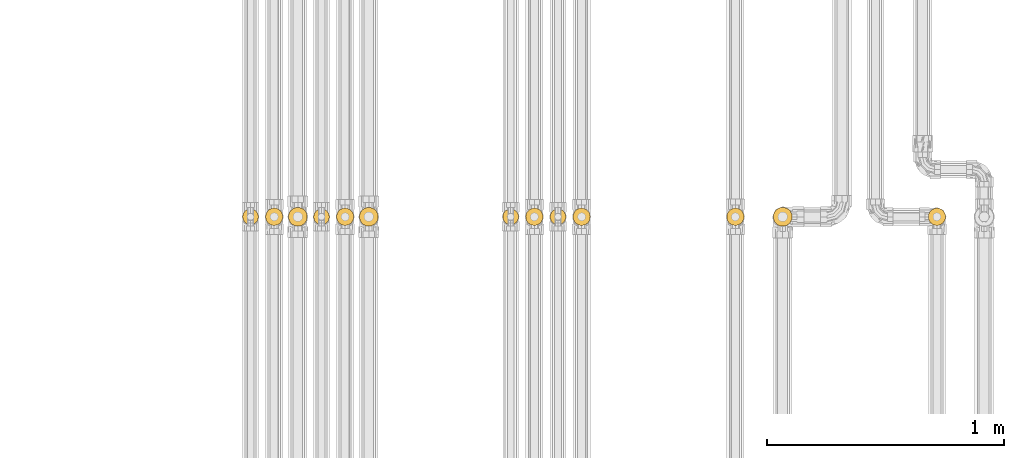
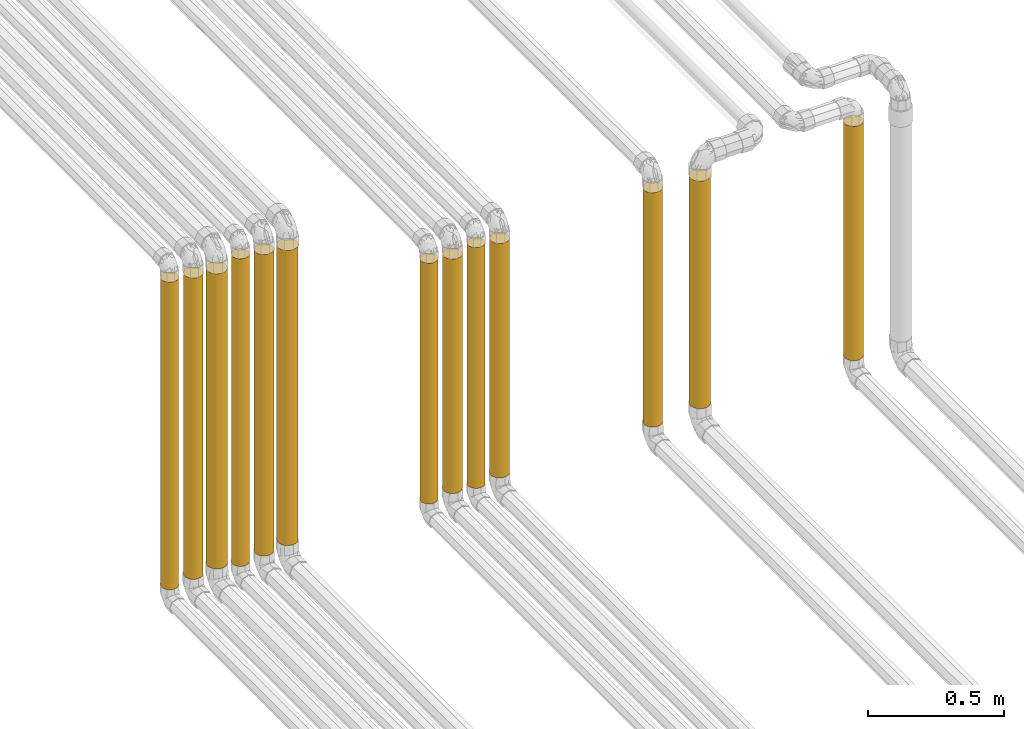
# One storey, part 51 of 652: 13 coverings.
"""IFC2X3 building model written with IfcOpenShell, lengths in millimetres."""

from ifc_helpers import new_model, entity, si_unit, converted_unit, direction, frame, frame_2d, origin, origin_2d_with_axis, place, context, subcontext, project, spatial, circle, extrude, material, type_object, element, save


model = new_model("IFC2X3")

# Units and contexts
model_context = context("Model", 3, precision=0.01, world=frame((0.0, 0.0, 308426.39999999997)), true_north=direction((6.123233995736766e-17, 1.0)))
plan_context = context("Plan", 3, precision=0.01, world=frame((0.0, 0.0, 308426.39999999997)), true_north=direction((6.123233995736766e-17, 1.0)))
body_context = subcontext(model_context, "Body", "Model", "MODEL_VIEW")
ifc_project = project(units=[si_unit("LENGTHUNIT", "METRE", prefix="MILLI"), si_unit("AREAUNIT", "SQUARE_METRE"), si_unit("VOLUMEUNIT", "CUBIC_METRE"), converted_unit("PLANEANGLEUNIT", "DEGREE", entity("IfcPlaneAngleMeasure", 0.017453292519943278), si_unit("PLANEANGLEUNIT", "RADIAN"), dimensions=[0, 0, 0, 0, 0, 0, 0])], contexts=[model_context, plan_context])

# Site, building, storey
site_placement = place(None, origin())
site = spatial("IfcSite", under=ifc_project, at=site_placement, Name="Default", CompositionType="ELEMENT")
building_placement = place(site_placement, origin())
building = spatial("IfcBuilding", under=site, at=building_placement, CompositionType="ELEMENT")
storey_placement = place(building_placement, frame((0.0, 0.0, 1730.6999999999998)))
storey = spatial("IfcBuildingStorey", under=building, at=storey_placement, Name="EG_Produktion_FFB", CompositionType="ELEMENT", Elevation=1730.6999999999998)

# Coverings
ifc_material = material(Name="Dämmung - Armaflex-Schlauch")
covering_type = type_object("IfcCoveringType", Name="Rohrdämmung außen:Armaflex-Schlauch", PredefinedType="INSULATION")
covering_1_placement = place(storey_placement, origin())
element("IfcCovering", 1, at=covering_1_placement, inside=storey, type_object=covering_type, material=ifc_material, Name="Rohrdämmung außen:Armaflex-Schlauch", ObjectType="Rohrdämmung außen:Armaflex-Schlauch", PredefinedType="INSULATION", context=body_context, shape_type="SweptSolid", body=[
    extrude(circle(Radius=36.5, at=frame_2d((0.0, -6.930349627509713e-11), x_axis=(1.0, 0.0))), frame((79382.09274770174, 51638.02835396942, 2474.250000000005)), (0.0, 0.0, 1.0), 1051.5000000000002),
])
covering_2_placement = place(storey_placement, origin())
element("IfcCovering", 2, at=covering_2_placement, inside=storey, type_object=covering_type, material=ifc_material, Name="Rohrdämmung außen:Armaflex-Schlauch", ObjectType="Rohrdämmung außen:Armaflex-Schlauch", PredefinedType="INSULATION", context=body_context, shape_type="SweptSolid", body=[
    extrude(circle(Radius=36.5, at=origin_2d_with_axis()), frame((78530.0, 51638.028353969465, 2474.2500000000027), z_axis=(0.0, 0.0, 1.0), x_axis=(-1.0, 0.0, 0.0)), (0.0, 0.0, 1.0), 1051.5000000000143),
])
covering_3_placement = place(storey_placement, origin())
element("IfcCovering", 3, at=covering_3_placement, inside=storey, type_object=covering_type, material=ifc_material, Name="Rohrdämmung außen:Armaflex-Schlauch", ObjectType="Rohrdämmung außen:Armaflex-Schlauch", PredefinedType="INSULATION", context=body_context, shape_type="SweptSolid", body=[
    extrude(circle(Radius=40.0, at=origin_2d_with_axis()), frame((78730.0, 51638.02835396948, 2489.720000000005)), (0.0, 0.0, 1.0), 1020.560000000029),
])
covering_4_placement = place(storey_placement, origin())
element("IfcCovering", 4, at=covering_4_placement, inside=storey, type_object=covering_type, material=ifc_material, Name="Rohrdämmung außen:Armaflex-Schlauch", ObjectType="Rohrdämmung außen:Armaflex-Schlauch", PredefinedType="INSULATION", context=body_context, shape_type="SweptSolid", body=[
    extrude(circle(Radius=36.4625, at=origin_2d_with_axis()), frame((77880.00000000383, 51638.02835396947, 2474.0842499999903), z_axis=(0.0, 0.0, 1.0), x_axis=(-1.0, 0.0, 0.0)), (0.0, 0.0, 1.0), 1051.8315000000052),
])
covering_5_placement = place(storey_placement, origin())
element("IfcCovering", 5, at=covering_5_placement, inside=storey, type_object=covering_type, material=ifc_material, Name="Rohrdämmung außen:Armaflex-Schlauch", ObjectType="Rohrdämmung außen:Armaflex-Schlauch", PredefinedType="INSULATION", context=body_context, shape_type="SweptSolid", body=[
    extrude(circle(Radius=36.4625, at=origin_2d_with_axis()), frame((77680.0000000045, 51638.028353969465, 2474.0842499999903), z_axis=(0.0, 0.0, 1.0), x_axis=(-1.0, 0.0, 0.0)), (0.0, 0.0, 1.0), 1051.8315000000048),
])
covering_6_placement = place(storey_placement, origin())
element("IfcCovering", 6, at=covering_6_placement, inside=storey, type_object=covering_type, material=ifc_material, Name="Rohrdämmung außen:Armaflex-Schlauch", ObjectType="Rohrdämmung außen:Armaflex-Schlauch", PredefinedType="INSULATION", context=body_context, shape_type="SweptSolid", body=[
    extrude(circle(Radius=33.2875, at=origin_2d_with_axis()), frame((77779.9999999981, 51638.02835396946, 2460.050749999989), z_axis=(0.0, 0.0, 1.0), x_axis=(-1.0, 0.0, 0.0)), (0.0, 0.0, 1.0), 1079.8985000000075),
])
covering_7_placement = place(storey_placement, origin())
element("IfcCovering", 7, at=covering_7_placement, inside=storey, type_object=covering_type, material=ifc_material, Name="Rohrdämmung außen:Armaflex-Schlauch", ObjectType="Rohrdämmung außen:Armaflex-Schlauch", PredefinedType="INSULATION", context=body_context, shape_type="SweptSolid", body=[
    extrude(circle(Radius=33.2875, at=origin_2d_with_axis()), frame((77580.00000000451, 51638.02835396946, 2460.0507499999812), z_axis=(0.0, 0.0, 1.0), x_axis=(-1.0, 0.0, 0.0)), (0.0, 0.0, 1.0), 1079.8985000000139),
])
covering_8_placement = place(storey_placement, origin())
element("IfcCovering", 8, at=covering_8_placement, inside=storey, type_object=covering_type, material=ifc_material, Name="Rohrdämmung außen:Armaflex-Schlauch", ObjectType="Rohrdämmung außen:Armaflex-Schlauch", PredefinedType="INSULATION", context=body_context, shape_type="SweptSolid", body=[
    extrude(circle(Radius=39.63750000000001, at=origin_2d_with_axis()), frame((76680.0000000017, 51638.02835396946, 2488.1177499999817)), (0.0, 0.0, 1.0), 1323.7645000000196),
])
covering_9_placement = place(storey_placement, origin())
element("IfcCovering", 9, at=covering_9_placement, inside=storey, type_object=covering_type, material=ifc_material, Name="Rohrdämmung außen:Armaflex-Schlauch", ObjectType="Rohrdämmung außen:Armaflex-Schlauch", PredefinedType="INSULATION", context=body_context, shape_type="SweptSolid", body=[
    extrude(circle(Radius=39.63750000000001, at=origin_2d_with_axis()), frame((76980.00000000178, 51638.02835396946, 2488.1177499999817)), (0.0, 0.0, 1.0), 1323.764500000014),
])
covering_10_placement = place(storey_placement, origin())
element("IfcCovering", 10, at=covering_10_placement, inside=storey, type_object=covering_type, material=ifc_material, Name="Rohrdämmung außen:Armaflex-Schlauch", ObjectType="Rohrdämmung außen:Armaflex-Schlauch", PredefinedType="INSULATION", context=body_context, shape_type="SweptSolid", body=[
    extrude(circle(Radius=36.4625, at=origin_2d_with_axis()), frame((76580.0000000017, 51638.02835396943, 2474.0842499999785), z_axis=(0.0, 0.0, 1.0), x_axis=(-1.0, 0.0, 0.0)), (0.0, 0.0, 1.0), 1351.8315000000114),
])
covering_11_placement = place(storey_placement, origin())
element("IfcCovering", 11, at=covering_11_placement, inside=storey, type_object=covering_type, material=ifc_material, Name="Rohrdämmung außen:Armaflex-Schlauch", ObjectType="Rohrdämmung außen:Armaflex-Schlauch", PredefinedType="INSULATION", context=body_context, shape_type="SweptSolid", body=[
    extrude(circle(Radius=36.4625, at=origin_2d_with_axis()), frame((76880.00000000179, 51638.02835396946, 2474.084249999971), z_axis=(0.0, 0.0, 1.0), x_axis=(-1.0, 0.0, 0.0)), (0.0, 0.0, 1.0), 1351.8315000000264),
])
covering_12_placement = place(storey_placement, origin())
element("IfcCovering", 12, at=covering_12_placement, inside=storey, type_object=covering_type, material=ifc_material, Name="Rohrdämmung außen:Armaflex-Schlauch", ObjectType="Rohrdämmung außen:Armaflex-Schlauch", PredefinedType="INSULATION", context=body_context, shape_type="SweptSolid", body=[
    extrude(circle(Radius=33.2875, at=origin_2d_with_axis()), frame((76480.00000000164, 51638.02835396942, 2460.050749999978), z_axis=(0.0, 0.0, 1.0), x_axis=(-1.0, 0.0, 0.0)), (0.0, 0.0, 1.0), 1379.8985000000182),
])
covering_13_placement = place(storey_placement, origin())
element("IfcCovering", 13, at=covering_13_placement, inside=storey, type_object=covering_type, material=ifc_material, Name="Rohrdämmung außen:Armaflex-Schlauch", ObjectType="Rohrdämmung außen:Armaflex-Schlauch", PredefinedType="INSULATION", context=body_context, shape_type="SweptSolid", body=[
    extrude(circle(Radius=33.2875, at=origin_2d_with_axis()), frame((76780.00000000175, 51638.02835396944, 2460.0507499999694)), (0.0, 0.0, 1.0), 1379.898500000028),
])

save(model, "model.ifc")
